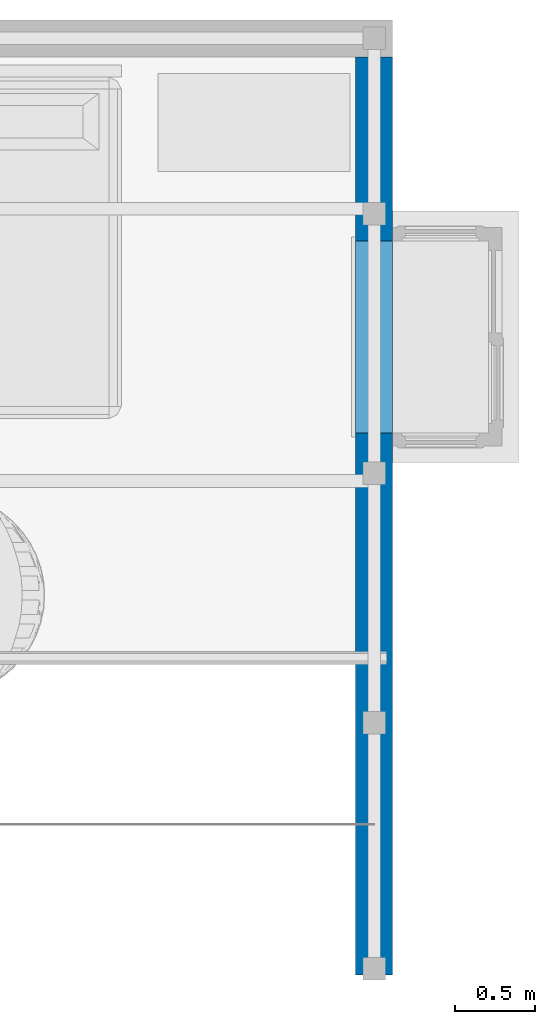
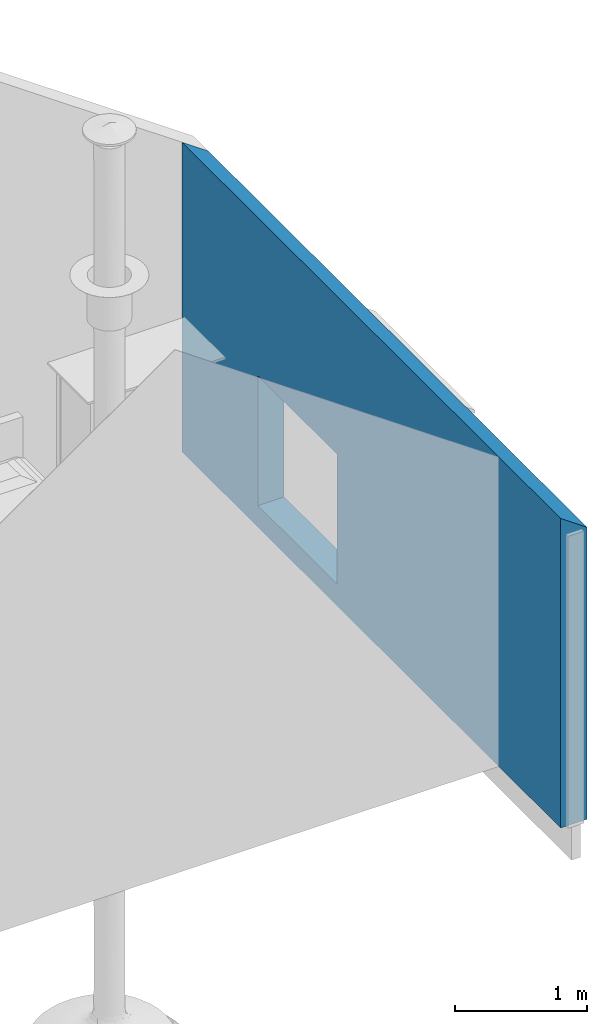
# One storey, part 3 of 5: 1 wall, 1 opening.
"""IFC2X3 building model written with IfcOpenShell, lengths in metres."""

from ifc_helpers import new_model, entity, si_unit, converted_unit, derived_unit, direction, frame, frame_2d, origin, place, context, subcontext, project, spatial, rectangle, extrude, faceted_brep, material, layer, layer_set, type_object, element, save


model = new_model("IFC2X3")

# Units and contexts
model_context = context("Model", 3, precision=1e-05, world=origin(), true_north=direction((6.123233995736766e-17, 1.0)))
body_context = subcontext(model_context, "Body", "Model", "MODEL_VIEW")
ifc_project = project(units=[si_unit("LENGTHUNIT", "METRE"), si_unit("AREAUNIT", "SQUARE_METRE"), converted_unit("PLANEANGLEUNIT", "DEGREE", entity("IfcPlaneAngleMeasure", 0.017453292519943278), si_unit("PLANEANGLEUNIT", "RADIAN"), dimensions=[0, 0, 0, 0, 0, 0, 0]), derived_unit("THERMALTRANSMITTANCEUNIT", [(si_unit("MASSUNIT", "GRAM", prefix="KILO"), 1), (si_unit("THERMODYNAMICTEMPERATUREUNIT", "KELVIN"), -1), (si_unit("TIMEUNIT", "SECOND"), -3)])], contexts=[model_context])

# Site, building, storey
site_placement = place(None, origin())
site = spatial("IfcSite", under=ifc_project, at=site_placement, Name="Default", CompositionType="ELEMENT")
building_placement = place(site_placement, origin())
building = spatial("IfcBuilding", under=site, at=building_placement, CompositionType="ELEMENT")
storey_placement = place(building_placement, frame((0.0, 0.0, 3.0999999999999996)))
storey = spatial("IfcBuildingStorey", under=building, at=storey_placement, Name="1 - First Floor", CompositionType="ELEMENT", Elevation=3.0999999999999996)

# Wall, opening
ifc_material_1 = material(Name="gypsum plaster")
ifc_layer_1 = layer(ifc_material_1, 0.025)
ifc_material_2 = material(Name="wood fiber")
ifc_layer_2 = layer(ifc_material_2, 0.02)
ifc_material_3 = material(Name="osb panel")
ifc_layer_3 = layer(ifc_material_3, 0.02)
ifc_layer_4 = layer(ifc_material_2, 0.02)
ifc_material_4 = material(Name="water proof and wind proof sheet")
ifc_layer_5 = layer(ifc_material_4, 0.005)
ifc_layer_6 = layer(ifc_material_3, 0.02)
ifc_material_5 = material(Name="mineral rock wool")
ifc_layer_7 = layer(ifc_material_5, 0.04)
ifc_material_6 = material(Name="air cavity")
ifc_layer_8 = layer(ifc_material_6, 0.05)
ifc_material_7 = material(Name="plaster board panel")
ifc_layer_9 = layer(ifc_material_7, 0.03)
ifc_layer_set = layer_set([ifc_layer_1, ifc_layer_2, ifc_layer_3, ifc_layer_4, ifc_layer_5, ifc_layer_6, ifc_layer_7, ifc_layer_8, ifc_layer_9], Name="Basic Wall:external wall 2")
wall_type = type_object("IfcWallType", Name="Basic Wall:external wall 2", PredefinedType="STANDARD", material=ifc_layer_set)
wall_placement = place(storey_placement, frame((3.468075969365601, 3.552051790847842, 0.0), z_axis=(0.0, 0.0, 1.0), x_axis=(0.0, -1.0, 0.0)))
wall = element("IfcWall", 1, at=wall_placement, inside=storey, type_object=wall_type, Name="Basic Wall:external wall 2", ObjectType="Basic Wall:external wall 2", context=body_context, shape_type="Brep", body=[
    faceted_brep([(0.0, -0.11500000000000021, 0.0), (5.735, -0.11500000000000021, 0.0), (5.735, -0.11500000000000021, 2.8610477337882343), (0.0, -0.11500000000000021, 2.8610477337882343), (1.1499999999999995, -0.11500000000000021, 1.400000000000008), (2.3500000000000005, -0.11500000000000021, 1.400000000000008), (2.3500000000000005, -0.11500000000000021, 0.20000000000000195), (1.1499999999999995, -0.11500000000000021, 0.20000000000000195), (1.1499999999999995, 0.11500000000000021, 1.400000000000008), (1.1499999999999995, 0.11500000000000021, 0.20000000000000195), (2.3500000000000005, 0.11500000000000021, 0.20000000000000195), (2.3500000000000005, 0.11500000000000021, 1.400000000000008), (0.0, 0.11500000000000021, 0.0), (0.0, 0.11500000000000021, 2.7000000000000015), (5.735, 0.11500000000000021, 2.7000000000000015), (5.735, 0.11500000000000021, 0.0)], [[[0, 1, 2, 3], [4, 5, 6, 7]], [[8, 9, 10, 11], [12, 13, 14, 15]], [[3, 2, 14, 13]], [[9, 8, 4, 7]], [[10, 9, 7, 6]], [[11, 10, 6, 5]], [[8, 11, 5, 4]], [[1, 0, 12, 15]], [[2, 1, 15, 14]], [[0, 3, 13, 12]]], outer=[[True, False], [False, True], [True], [True], [True], [True], [True], [True], [True], [True]]),
])
opening_placement = place(wall_placement, frame((1.1499999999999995, -0.11499999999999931, 0.20000000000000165)))
element("IfcOpeningElement", 2, at=opening_placement, cuts=wall, Name="Bay - Rectangular(2):Bay - Rectangular(2):1", ObjectType="Opening", context=body_context, shape_type="SweptSolid", body=[
    extrude(rectangle(XDim=1.2000000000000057, YDim=1.2000000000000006, at=frame_2d((0.600000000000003, 0.6000000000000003), x_axis=(-1.0, 0.0))), frame((0.0, 0.0, 0.0), z_axis=(0.0, 1.0, 0.0), x_axis=(0.0, 0.0, 1.0)), (0.0, 0.0, 1.0), 0.23000000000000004),
])

save(model, "model.ifc")
